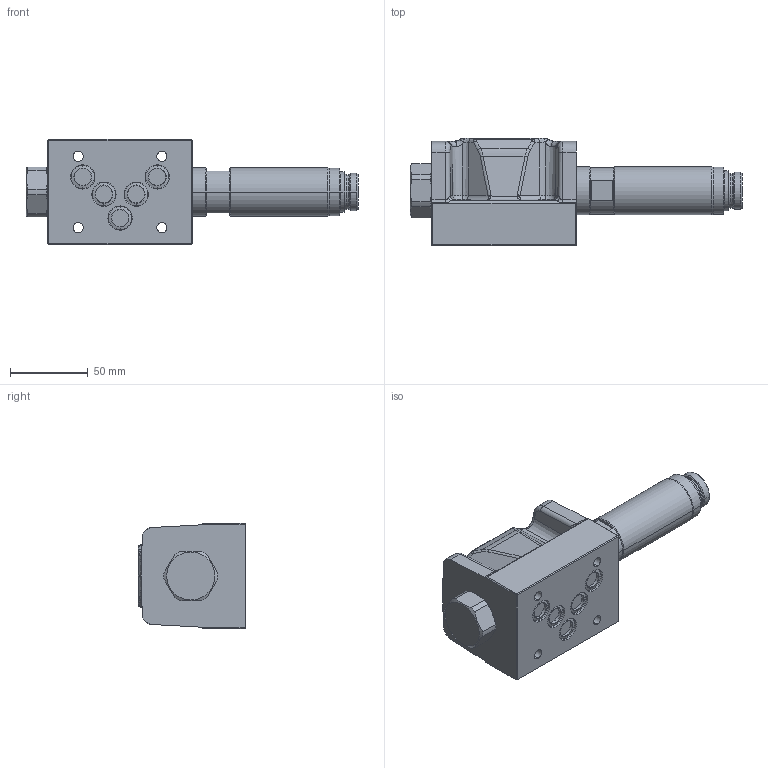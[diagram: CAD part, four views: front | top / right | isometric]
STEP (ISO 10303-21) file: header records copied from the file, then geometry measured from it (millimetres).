
FILE_DESCRIPTION (( 'STEP AP214' ), '1' );
FILE_NAME ('WDPFA10-4_2-Bside.STEP', '2015-10-06T13:28:54', ( '' ), ( '' ), 'SwSTEP 2.0', 'SolidWorks 2014', '' );
FILE_SCHEMA (( 'AUTOMOTIVE_DESIGN' ));
Length unit declared in the file: millimetre
Products named in the file (2): WDPFA10-4_2-Bside
Bounding box: 214.2 x 69.5 x 68 mm (x, y, z)
Volume: 441648.8 mm3; surface area: 51102.6 mm2
Topology: 1 solids, 1 shells, 847 faces, 2103 edges, 1280 vertices
Faces by surface type: plane 436, cylinder 217, bspline 110, cone 53, torus 31
Entity records: 37966 total; most frequent: CARTESIAN_POINT 9345, ORIENTED_EDGE 4186, DIRECTION 3856, EDGE_CURVE 2093, AXIS2_PLACEMENT_3D 1334, VERTEX_POINT 1280, LINE 1188, VECTOR 1188
